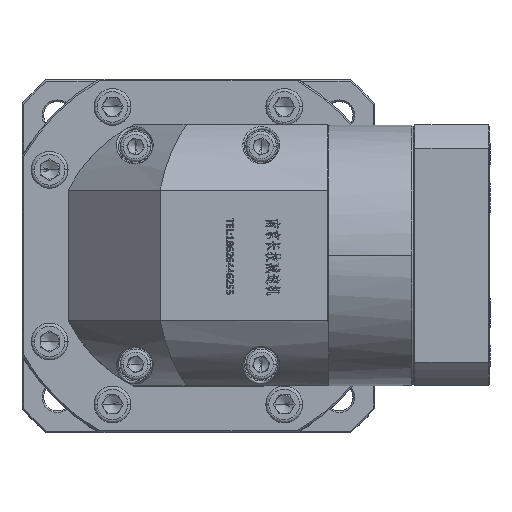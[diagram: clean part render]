
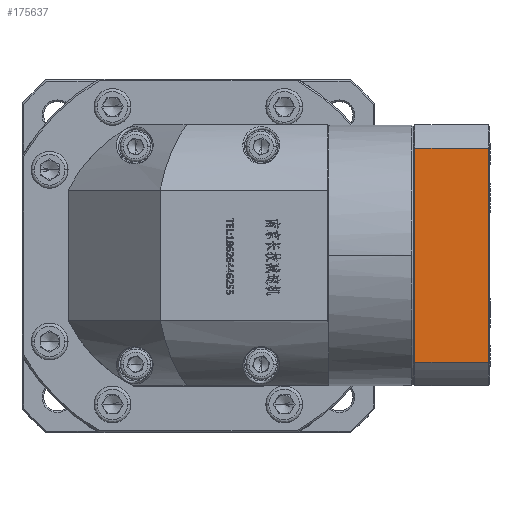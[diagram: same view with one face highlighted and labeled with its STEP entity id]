
A CAD part, top view. The second image highlights one B-rep face of the part: STEP entity #175637.
In plain terms, the highlighted planar face has unit normal (0, 0, 1).
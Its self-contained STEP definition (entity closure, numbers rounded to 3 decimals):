
#2515 = CARTESIAN_POINT ( 'NONE',  ( 75.861, 58.719, 319.002 ) ) ;
#16755 = DIRECTION ( 'NONE',  ( 1., 0., 0. ) ) ;
#23361 = DIRECTION ( 'NONE',  ( 0., -1., 0. ) ) ;
#28906 = VERTEX_POINT ( 'NONE', #155440 ) ;
#35807 = LINE ( 'NONE', #174119, #106807 ) ;
#38752 = DIRECTION ( 'NONE',  ( -1., 0., 0. ) ) ;
#38795 = CARTESIAN_POINT ( 'NONE',  ( 75.361, -11.102, 319.002 ) ) ;
#39500 = CARTESIAN_POINT ( 'NONE',  ( 51.361, -11.102, 319.002 ) ) ;
#39562 = EDGE_CURVE ( 'NONE', #163605, #124628, #115742, .T. ) ;
#40068 = CARTESIAN_POINT ( 'NONE',  ( 75.861, -11.102, 319.002 ) ) ;
#41058 = FACE_OUTER_BOUND ( 'NONE', #127134, .T. ) ;
#44153 = ORIENTED_EDGE ( 'NONE', *, *, #50145, .F. ) ;
#49086 = ORIENTED_EDGE ( 'NONE', *, *, #39562, .F. ) ;
#50145 = EDGE_CURVE ( 'NONE', #28906, #168578, #64697, .T. ) ;
#54370 = DIRECTION ( 'NONE',  ( -1., 0., 0. ) ) ;
#64697 = LINE ( 'NONE', #2515, #173353 ) ;
#75502 = VECTOR ( 'NONE', #23361, 1000. ) ;
#79950 = LINE ( 'NONE', #38795, #75502 ) ;
#103947 = EDGE_CURVE ( 'NONE', #28906, #124628, #35807, .T. ) ;
#106807 = VECTOR ( 'NONE', #131972, 1000. ) ;
#109450 = CARTESIAN_POINT ( 'NONE',  ( 75.861, -11.102, 319.002 ) ) ;
#111274 = VECTOR ( 'NONE', #38752, 1000. ) ;
#115742 = LINE ( 'NONE', #109450, #111274 ) ;
#122411 = ORIENTED_EDGE ( 'NONE', *, *, #165850, .F. ) ;
#124006 = CARTESIAN_POINT ( 'NONE',  ( 75.361, -11.102, 319.002 ) ) ;
#124628 = VERTEX_POINT ( 'NONE', #39500 ) ;
#127134 = EDGE_LOOP ( 'NONE', ( #122411, #44153, #142879, #49086 ) ) ;
#131972 = DIRECTION ( 'NONE',  ( 0., -1., 0. ) ) ;
#139241 = DIRECTION ( 'NONE',  ( 0., 0., -1. ) ) ;
#142879 = ORIENTED_EDGE ( 'NONE', *, *, #103947, .T. ) ;
#151219 = CARTESIAN_POINT ( 'NONE',  ( 75.361, 58.719, 319.002 ) ) ;
#152326 = PLANE ( 'NONE',  #160333 ) ;
#155440 = CARTESIAN_POINT ( 'NONE',  ( 51.361, 58.719, 319.002 ) ) ;
#160333 = AXIS2_PLACEMENT_3D ( 'NONE', #40068, #139241, #54370 ) ;
#163605 = VERTEX_POINT ( 'NONE', #124006 ) ;
#165850 = EDGE_CURVE ( 'NONE', #168578, #163605, #79950, .T. ) ;
#168578 = VERTEX_POINT ( 'NONE', #151219 ) ;
#173353 = VECTOR ( 'NONE', #16755, 1000. ) ;
#174119 = CARTESIAN_POINT ( 'NONE',  ( 51.361, -11.102, 319.002 ) ) ;
#175637 = ADVANCED_FACE ( 'NONE', ( #41058 ), #152326, .F. ) ;
